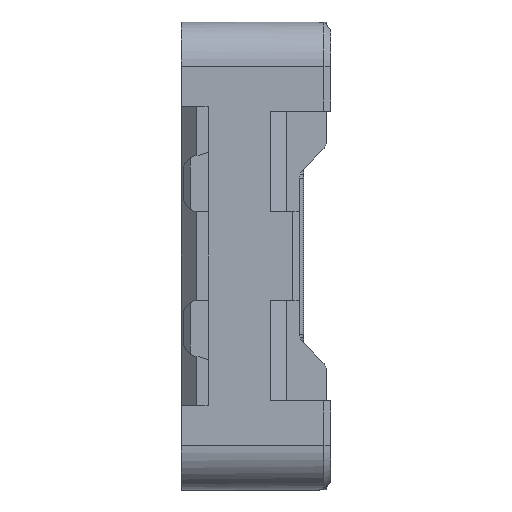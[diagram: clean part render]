
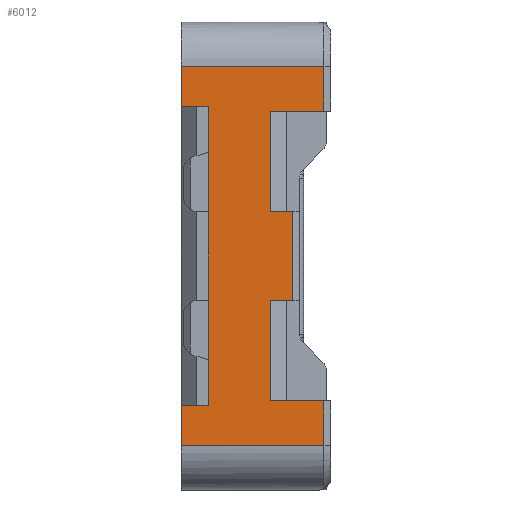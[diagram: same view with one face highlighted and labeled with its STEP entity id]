
A CAD part, left-side view. The second image highlights one B-rep face of the part: STEP entity #6012.
In plain terms, the highlighted planar face has unit normal (-1, 0, 0).
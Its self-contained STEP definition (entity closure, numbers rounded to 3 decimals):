
#51 = EDGE_CURVE ( 'NONE', #5625, #4387, #13399, .T. ) ;
#71 = VECTOR ( 'NONE', #9684, 1000. ) ;
#98 = LINE ( 'NONE', #2110, #9307 ) ;
#214 = VERTEX_POINT ( 'NONE', #9999 ) ;
#391 = CARTESIAN_POINT ( 'NONE',  ( -2.075, 0.7, 0.85 ) ) ;
#470 = CARTESIAN_POINT ( 'NONE',  ( -2.075, 0.58, -0.67 ) ) ;
#557 = CARTESIAN_POINT ( 'NONE',  ( -2.075, 0.63, 0.67 ) ) ;
#700 = LINE ( 'NONE', #10754, #8769 ) ;
#722 = CARTESIAN_POINT ( 'NONE',  ( -2.075, 0.7, -0.85 ) ) ;
#800 = DIRECTION ( 'NONE',  ( 0., 0., 1. ) ) ;
#841 = DIRECTION ( 'NONE',  ( 0., 0., 1. ) ) ;
#1001 = VERTEX_POINT ( 'NONE', #6390 ) ;
#1108 = EDGE_CURVE ( 'NONE', #2937, #2832, #11584, .T. ) ;
#1207 = ORIENTED_EDGE ( 'NONE', *, *, #3731, .F. ) ;
#1381 = VERTEX_POINT ( 'NONE', #7241 ) ;
#1573 = CARTESIAN_POINT ( 'NONE',  ( -2.075, 0.2, -0.2 ) ) ;
#1609 = ORIENTED_EDGE ( 'NONE', *, *, #2074, .T. ) ;
#1811 = VECTOR ( 'NONE', #7737, 1000. ) ;
#1875 = AXIS2_PLACEMENT_3D ( 'NONE', #3541, #10907, #11956 ) ;
#1906 = DIRECTION ( 'NONE',  ( 0., -1., 0. ) ) ;
#1945 = VERTEX_POINT ( 'NONE', #5183 ) ;
#2074 = EDGE_CURVE ( 'NONE', #2832, #3942, #12199, .T. ) ;
#2110 = CARTESIAN_POINT ( 'NONE',  ( -2.075, 0.2, 1.05 ) ) ;
#2299 = CARTESIAN_POINT ( 'NONE',  ( -2.075, 0.7, -1.05 ) ) ;
#2438 = DIRECTION ( 'NONE',  ( 0., 1., 0. ) ) ;
#2471 = ORIENTED_EDGE ( 'NONE', *, *, #10704, .F. ) ;
#2734 = VECTOR ( 'NONE', #8683, 1000. ) ;
#2767 = EDGE_CURVE ( 'NONE', #3325, #1001, #7108, .T. ) ;
#2796 = CARTESIAN_POINT ( 'NONE',  ( -2.075, 0.3, 0.65 ) ) ;
#2832 = VERTEX_POINT ( 'NONE', #3511 ) ;
#2891 = DIRECTION ( 'NONE',  ( 0., 1., 0. ) ) ;
#2937 = VERTEX_POINT ( 'NONE', #470 ) ;
#3074 = EDGE_CURVE ( 'NONE', #4830, #13505, #700, .T. ) ;
#3325 = VERTEX_POINT ( 'NONE', #10574 ) ;
#3397 = VECTOR ( 'NONE', #13523, 1000. ) ;
#3511 = CARTESIAN_POINT ( 'NONE',  ( -2.075, 0.7, -0.67 ) ) ;
#3541 = CARTESIAN_POINT ( 'NONE',  ( -2.075, 0.58, 1.05 ) ) ;
#3731 = EDGE_CURVE ( 'NONE', #10438, #3942, #5197, .T. ) ;
#3942 = VERTEX_POINT ( 'NONE', #722 ) ;
#4140 = ORIENTED_EDGE ( 'NONE', *, *, #9778, .T. ) ;
#4266 = DIRECTION ( 'NONE',  ( 0., 0., 1. ) ) ;
#4358 = VECTOR ( 'NONE', #7904, 1000. ) ;
#4387 = VERTEX_POINT ( 'NONE', #391 ) ;
#4598 = LINE ( 'NONE', #4794, #1811 ) ;
#4646 = ORIENTED_EDGE ( 'NONE', *, *, #9563, .F. ) ;
#4689 = DIRECTION ( 'NONE',  ( 0., 1., 0. ) ) ;
#4794 = CARTESIAN_POINT ( 'NONE',  ( -2.075, 0.3, 0.65 ) ) ;
#4830 = VERTEX_POINT ( 'NONE', #10635 ) ;
#4959 = EDGE_CURVE ( 'NONE', #3325, #8714, #8452, .T. ) ;
#4987 = CARTESIAN_POINT ( 'NONE',  ( -2.075, 0.58, -0.448 ) ) ;
#5103 = FACE_OUTER_BOUND ( 'NONE', #9896, .T. ) ;
#5183 = CARTESIAN_POINT ( 'NONE',  ( -2.075, 0.06, 0.65 ) ) ;
#5197 = LINE ( 'NONE', #6025, #6983 ) ;
#5379 = LINE ( 'NONE', #9378, #13396 ) ;
#5429 = LINE ( 'NONE', #10415, #11503 ) ;
#5518 = LINE ( 'NONE', #2796, #9491 ) ;
#5625 = VERTEX_POINT ( 'NONE', #7983 ) ;
#5709 = CARTESIAN_POINT ( 'NONE',  ( -2.075, 0.58, 0.85 ) ) ;
#5801 = CARTESIAN_POINT ( 'NONE',  ( -2.075, 0.2, 0.2 ) ) ;
#6012 = ADVANCED_FACE ( 'NONE', ( #5103 ), #9864, .T. ) ;
#6025 = CARTESIAN_POINT ( 'NONE',  ( -2.075, 0.58, -0.85 ) ) ;
#6390 = CARTESIAN_POINT ( 'NONE',  ( -2.075, 0.3, -0.2 ) ) ;
#6439 = DIRECTION ( 'NONE',  ( 0., 0., 1. ) ) ;
#6455 = CARTESIAN_POINT ( 'NONE',  ( -2.075, 0.06, -0.85 ) ) ;
#6616 = VECTOR ( 'NONE', #11756, 1000. ) ;
#6983 = VECTOR ( 'NONE', #2891, 1000. ) ;
#7108 = LINE ( 'NONE', #12770, #7435 ) ;
#7241 = CARTESIAN_POINT ( 'NONE',  ( -2.075, 0.06, 0.85 ) ) ;
#7255 = VERTEX_POINT ( 'NONE', #1573 ) ;
#7361 = LINE ( 'NONE', #4987, #13072 ) ;
#7420 = EDGE_CURVE ( 'NONE', #2937, #8363, #7361, .T. ) ;
#7435 = VECTOR ( 'NONE', #6439, 1000. ) ;
#7442 = ORIENTED_EDGE ( 'NONE', *, *, #9560, .T. ) ;
#7450 = EDGE_CURVE ( 'NONE', #8714, #10438, #13254, .T. ) ;
#7483 = CARTESIAN_POINT ( 'NONE',  ( -2.075, 0.63, -0.67 ) ) ;
#7649 = VECTOR ( 'NONE', #4689, 1000. ) ;
#7737 = DIRECTION ( 'NONE',  ( 0., 0., -1. ) ) ;
#7862 = DIRECTION ( 'NONE',  ( 0., -1., 0. ) ) ;
#7904 = DIRECTION ( 'NONE',  ( 0., 1., 0. ) ) ;
#7983 = CARTESIAN_POINT ( 'NONE',  ( -2.075, 0.7, 0.67 ) ) ;
#8328 = LINE ( 'NONE', #5709, #12867 ) ;
#8363 = VERTEX_POINT ( 'NONE', #13183 ) ;
#8452 = LINE ( 'NONE', #8613, #6616 ) ;
#8529 = ORIENTED_EDGE ( 'NONE', *, *, #10874, .T. ) ;
#8613 = CARTESIAN_POINT ( 'NONE',  ( -2.075, 0.3, -0.65 ) ) ;
#8683 = DIRECTION ( 'NONE',  ( 0., 0., 1. ) ) ;
#8714 = VERTEX_POINT ( 'NONE', #11727 ) ;
#8769 = VECTOR ( 'NONE', #10841, 1000. ) ;
#8887 = ORIENTED_EDGE ( 'NONE', *, *, #3074, .F. ) ;
#8988 = ORIENTED_EDGE ( 'NONE', *, *, #1108, .T. ) ;
#9068 = ORIENTED_EDGE ( 'NONE', *, *, #4959, .F. ) ;
#9090 = CARTESIAN_POINT ( 'NONE',  ( -2.075, 0.06, -1.05 ) ) ;
#9307 = VECTOR ( 'NONE', #4266, 1000. ) ;
#9378 = CARTESIAN_POINT ( 'NONE',  ( -2.075, 0.3, -0.2 ) ) ;
#9392 = EDGE_CURVE ( 'NONE', #1381, #4387, #8328, .T. ) ;
#9491 = VECTOR ( 'NONE', #7862, 1000. ) ;
#9560 = EDGE_CURVE ( 'NONE', #214, #1945, #5518, .T. ) ;
#9563 = EDGE_CURVE ( 'NONE', #8363, #5625, #13212, .T. ) ;
#9684 = DIRECTION ( 'NONE',  ( 0., 0., -1. ) ) ;
#9778 = EDGE_CURVE ( 'NONE', #7255, #13505, #98, .T. ) ;
#9864 = PLANE ( 'NONE',  #1875 ) ;
#9896 = EDGE_LOOP ( 'NONE', ( #11766, #8988, #1609, #1207, #12264, #9068, #12553, #12862, #4140, #8887, #2471, #7442, #8529, #12740, #12708, #4646 ) ) ;
#9999 = CARTESIAN_POINT ( 'NONE',  ( -2.075, 0.3, 0.65 ) ) ;
#10415 = CARTESIAN_POINT ( 'NONE',  ( -2.075, 0.06, 1.05 ) ) ;
#10438 = VERTEX_POINT ( 'NONE', #6455 ) ;
#10574 = CARTESIAN_POINT ( 'NONE',  ( -2.075, 0.3, -0.65 ) ) ;
#10635 = CARTESIAN_POINT ( 'NONE',  ( -2.075, 0.3, 0.2 ) ) ;
#10704 = EDGE_CURVE ( 'NONE', #214, #4830, #4598, .T. ) ;
#10754 = CARTESIAN_POINT ( 'NONE',  ( -2.075, 0.3, 0.2 ) ) ;
#10841 = DIRECTION ( 'NONE',  ( 0., -1., 0. ) ) ;
#10874 = EDGE_CURVE ( 'NONE', #1945, #1381, #5429, .T. ) ;
#10907 = DIRECTION ( 'NONE',  ( -1., 0., 0. ) ) ;
#11503 = VECTOR ( 'NONE', #841, 1000. ) ;
#11584 = LINE ( 'NONE', #7483, #4358 ) ;
#11727 = CARTESIAN_POINT ( 'NONE',  ( -2.075, 0.06, -0.65 ) ) ;
#11756 = DIRECTION ( 'NONE',  ( 0., -1., 0. ) ) ;
#11766 = ORIENTED_EDGE ( 'NONE', *, *, #7420, .F. ) ;
#11956 = DIRECTION ( 'NONE',  ( 0., 0., 1. ) ) ;
#12199 = LINE ( 'NONE', #2299, #71 ) ;
#12264 = ORIENTED_EDGE ( 'NONE', *, *, #7450, .F. ) ;
#12553 = ORIENTED_EDGE ( 'NONE', *, *, #2767, .T. ) ;
#12673 = EDGE_CURVE ( 'NONE', #1001, #7255, #5379, .T. ) ;
#12708 = ORIENTED_EDGE ( 'NONE', *, *, #51, .F. ) ;
#12740 = ORIENTED_EDGE ( 'NONE', *, *, #9392, .T. ) ;
#12754 = CARTESIAN_POINT ( 'NONE',  ( -2.075, 0.7, 1.05 ) ) ;
#12770 = CARTESIAN_POINT ( 'NONE',  ( -2.075, 0.3, -0.65 ) ) ;
#12862 = ORIENTED_EDGE ( 'NONE', *, *, #12673, .T. ) ;
#12867 = VECTOR ( 'NONE', #2438, 1000. ) ;
#13072 = VECTOR ( 'NONE', #800, 1000. ) ;
#13183 = CARTESIAN_POINT ( 'NONE',  ( -2.075, 0.58, 0.67 ) ) ;
#13212 = LINE ( 'NONE', #557, #7649 ) ;
#13254 = LINE ( 'NONE', #9090, #3397 ) ;
#13396 = VECTOR ( 'NONE', #1906, 1000. ) ;
#13399 = LINE ( 'NONE', #12754, #2734 ) ;
#13505 = VERTEX_POINT ( 'NONE', #5801 ) ;
#13523 = DIRECTION ( 'NONE',  ( 0., 0., -1. ) ) ;
